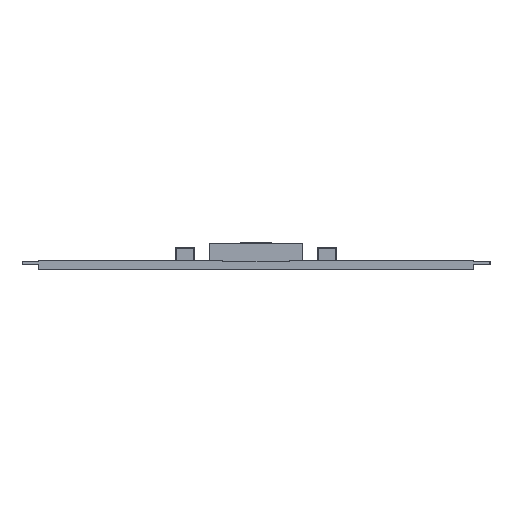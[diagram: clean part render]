
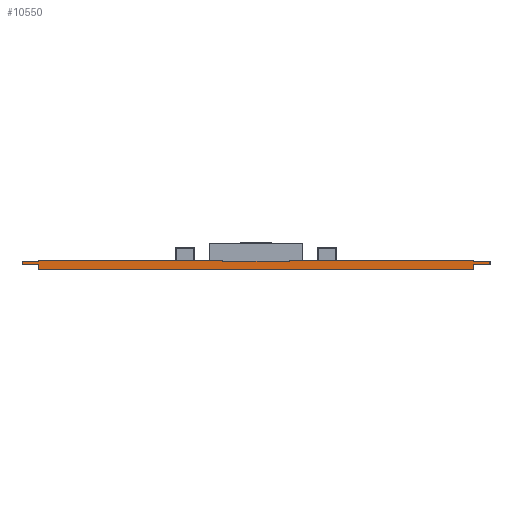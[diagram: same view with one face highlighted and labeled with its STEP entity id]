
A CAD part, left-side view. The second image highlights one B-rep face of the part: STEP entity #10550.
In plain terms, the highlighted planar face has unit normal (-1, 0, 0).
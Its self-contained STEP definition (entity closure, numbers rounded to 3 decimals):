
#822=DIRECTION('',(0.,0.,-1.));
#823=VECTOR('',#822,0.1);
#824=CARTESIAN_POINT('',(-140.,-7.,0.25));
#825=LINE('',#824,#823);
#838=DIRECTION('',(0.,0.,-1.));
#839=VECTOR('',#838,0.15);
#840=CARTESIAN_POINT('',(-140.,-6.5,0.15));
#841=LINE('',#840,#839);
#862=DIRECTION('',(0.,0.,1.));
#863=VECTOR('',#862,0.1);
#864=CARTESIAN_POINT('',(-140.,7.,0.15));
#865=LINE('',#864,#863);
#870=DIRECTION('',(0.,-1.,0.));
#871=VECTOR('',#870,0.5);
#872=CARTESIAN_POINT('',(-140.,-6.5,0.15));
#873=LINE('',#872,#871);
#874=DIRECTION('',(0.,-1.,0.));
#875=VECTOR('',#874,13.);
#876=CARTESIAN_POINT('',(-140.,6.5,0.));
#877=LINE('',#876,#875);
#878=DIRECTION('',(0.,0.,-1.));
#879=VECTOR('',#878,0.15);
#880=CARTESIAN_POINT('',(-140.,6.5,0.15));
#881=LINE('',#880,#879);
#882=DIRECTION('',(0.,-1.,0.));
#883=VECTOR('',#882,0.5);
#884=CARTESIAN_POINT('',(-140.,7.,0.15));
#885=LINE('',#884,#883);
#886=DIRECTION('',(0.,1.,0.));
#887=VECTOR('',#886,0.5);
#888=CARTESIAN_POINT('',(-140.,6.5,0.25));
#889=LINE('',#888,#887);
#890=DIRECTION('',(0.,1.,0.));
#891=VECTOR('',#890,5.5);
#892=CARTESIAN_POINT('',(-140.,1.,0.26));
#893=LINE('',#892,#891);
#894=DIRECTION('',(0.,0.,1.));
#895=VECTOR('',#894,0.01);
#896=CARTESIAN_POINT('',(-140.,1.,0.25));
#897=LINE('',#896,#895);
#898=DIRECTION('',(0.,1.,0.));
#899=VECTOR('',#898,2.);
#900=CARTESIAN_POINT('',(-140.,-1.,0.25));
#901=LINE('',#900,#899);
#902=DIRECTION('',(0.,1.,0.));
#903=VECTOR('',#902,5.5);
#904=CARTESIAN_POINT('',(-140.,-6.5,0.26));
#905=LINE('',#904,#903);
#906=DIRECTION('',(0.,0.,1.));
#907=VECTOR('',#906,0.01);
#908=CARTESIAN_POINT('',(-140.,-6.5,0.25));
#909=LINE('',#908,#907);
#910=DIRECTION('',(0.,1.,0.));
#911=VECTOR('',#910,0.5);
#912=CARTESIAN_POINT('',(-140.,-7.,0.25));
#913=LINE('',#912,#911);
#918=DIRECTION('',(0.,0.,1.));
#919=VECTOR('',#918,0.01);
#920=CARTESIAN_POINT('',(-140.,6.5,0.25));
#921=LINE('',#920,#919);
#985=DIRECTION('',(0.,0.,1.));
#986=VECTOR('',#985,0.01);
#987=CARTESIAN_POINT('',(-140.,-1.,0.25));
#988=LINE('',#987,#986);
#9084=CARTESIAN_POINT('',(-140.,-6.5,0.15));
#9085=CARTESIAN_POINT('',(-140.,-7.,0.15));
#9086=VERTEX_POINT('',#9084);
#9087=VERTEX_POINT('',#9085);
#9088=CARTESIAN_POINT('',(-140.,7.,0.15));
#9089=CARTESIAN_POINT('',(-140.,6.5,0.15));
#9090=VERTEX_POINT('',#9088);
#9091=VERTEX_POINT('',#9089);
#9094=CARTESIAN_POINT('',(-140.,6.5,0.25));
#9095=CARTESIAN_POINT('',(-140.,7.,0.25));
#9096=VERTEX_POINT('',#9094);
#9097=VERTEX_POINT('',#9095);
#9112=CARTESIAN_POINT('',(-140.,1.,0.25));
#9113=VERTEX_POINT('',#9112);
#9114=CARTESIAN_POINT('',(-140.,-1.,0.25));
#9115=VERTEX_POINT('',#9114);
#9130=CARTESIAN_POINT('',(-140.,-6.5,0.25));
#9131=VERTEX_POINT('',#9130);
#9132=CARTESIAN_POINT('',(-140.,-7.,0.25));
#9133=VERTEX_POINT('',#9132);
#9134=CARTESIAN_POINT('',(-140.,-6.5,0.26));
#9135=VERTEX_POINT('',#9134);
#9136=CARTESIAN_POINT('',(-140.,-1.,0.26));
#9137=VERTEX_POINT('',#9136);
#9138=CARTESIAN_POINT('',(-140.,1.,0.26));
#9139=VERTEX_POINT('',#9138);
#9140=CARTESIAN_POINT('',(-140.,6.5,0.26));
#9141=VERTEX_POINT('',#9140);
#9142=CARTESIAN_POINT('',(-140.,6.5,0.));
#9143=VERTEX_POINT('',#9142);
#9144=CARTESIAN_POINT('',(-140.,-6.5,0.));
#9145=VERTEX_POINT('',#9144);
#10521=CARTESIAN_POINT('',(-140.,7.,0.25));
#10522=DIRECTION('',(-1.,0.,0.));
#10523=DIRECTION('',(0.,0.,1.));
#10524=AXIS2_PLACEMENT_3D('',#10521,#10522,#10523);
#10525=PLANE('',#10524);
#10526=ORIENTED_EDGE('',*,*,#10439,.F.);
#10527=ORIENTED_EDGE('',*,*,#10454,.T.);
#10528=ORIENTED_EDGE('',*,*,#10469,.F.);
#10529=ORIENTED_EDGE('',*,*,#10484,.F.);
#10530=ORIENTED_EDGE('',*,*,#10499,.F.);
#10531=ORIENTED_EDGE('',*,*,#10513,.T.);
#10532=ORIENTED_EDGE('',*,*,#9585,.F.);
#10534=ORIENTED_EDGE('',*,*,#10533,.T.);
#10536=ORIENTED_EDGE('',*,*,#10535,.F.);
#10538=ORIENTED_EDGE('',*,*,#10537,.F.);
#10539=ORIENTED_EDGE('',*,*,#9567,.F.);
#10541=ORIENTED_EDGE('',*,*,#10540,.T.);
#10543=ORIENTED_EDGE('',*,*,#10542,.F.);
#10545=ORIENTED_EDGE('',*,*,#10544,.F.);
#10546=ORIENTED_EDGE('',*,*,#9549,.F.);
#10547=ORIENTED_EDGE('',*,*,#10424,.T.);
#10548=EDGE_LOOP('',(#10526,#10527,#10528,#10529,#10530,#10531,#10532,#10534,
#10536,#10538,#10539,#10541,#10543,#10545,#10546,#10547));
#10549=FACE_OUTER_BOUND('',#10548,.F.);
#10550=ADVANCED_FACE('',(#10549),#10525,.T.);
#9549=EDGE_CURVE('',#9133,#9131,#913,.T.);
#9567=EDGE_CURVE('',#9115,#9113,#901,.T.);
#9585=EDGE_CURVE('',#9096,#9097,#889,.T.);
#10424=EDGE_CURVE('',#9133,#9087,#825,.T.);
#10439=EDGE_CURVE('',#9086,#9087,#873,.T.);
#10454=EDGE_CURVE('',#9086,#9145,#841,.T.);
#10469=EDGE_CURVE('',#9143,#9145,#877,.T.);
#10484=EDGE_CURVE('',#9091,#9143,#881,.T.);
#10499=EDGE_CURVE('',#9090,#9091,#885,.T.);
#10513=EDGE_CURVE('',#9090,#9097,#865,.T.);
#10533=EDGE_CURVE('',#9096,#9141,#921,.T.);
#10535=EDGE_CURVE('',#9139,#9141,#893,.T.);
#10537=EDGE_CURVE('',#9113,#9139,#897,.T.);
#10540=EDGE_CURVE('',#9115,#9137,#988,.T.);
#10542=EDGE_CURVE('',#9135,#9137,#905,.T.);
#10544=EDGE_CURVE('',#9131,#9135,#909,.T.);
